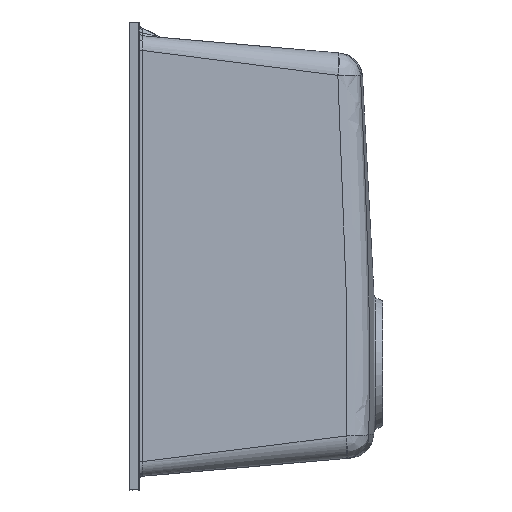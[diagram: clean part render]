
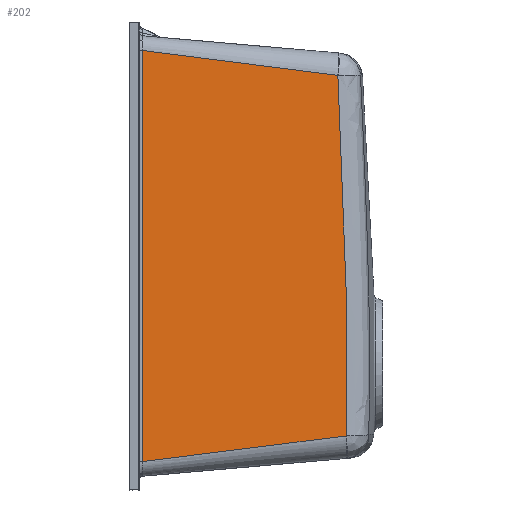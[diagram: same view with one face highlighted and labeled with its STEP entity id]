
A CAD part, left-side view. The second image highlights one B-rep face of the part: STEP entity #202.
In plain terms, the highlighted planar face has unit normal (-0.996, -0.087, 0).
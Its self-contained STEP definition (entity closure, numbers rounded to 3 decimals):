
#202=ADVANCED_FACE('',(#618),#619,.T.);
#618=FACE_OUTER_BOUND('',#3191,.T.);
#619=PLANE('',#3192);
#3191=EDGE_LOOP('',(#7005,#7006,#7007,#7008,#7009));
#3192=AXIS2_PLACEMENT_3D('',#7010,#7011,#7012);
#7005=ORIENTED_EDGE('',*,*,#8207,.F.);
#7006=ORIENTED_EDGE('',*,*,#8291,.T.);
#7007=ORIENTED_EDGE('',*,*,#8359,.F.);
#7008=ORIENTED_EDGE('',*,*,#8360,.F.);
#7009=ORIENTED_EDGE('',*,*,#8361,.F.);
#7010=CARTESIAN_POINT('',(-368.231,9.303,215.261));
#7011=DIRECTION('',(-0.996,-0.087,0.0));
#7012=DIRECTION('',(-0.087,0.996,0.0));
#8207=EDGE_CURVE('',#9063,#9064,#9065,.F.);
#8291=EDGE_CURVE('',#9063,#9194,#9197,.T.);
#8359=EDGE_CURVE('',#9300,#9194,#9301,.T.);
#8360=EDGE_CURVE('',#9302,#9300,#9303,.T.);
#8361=EDGE_CURVE('',#9064,#9302,#9304,.T.);
#9063=VERTEX_POINT('',#11461);
#9064=VERTEX_POINT('',#11462);
#9065=B_SPLINE_CURVE_WITH_KNOTS('',3,(#11463,#11464,#11465,#11466),.UNSPECIFIED.,.F.,.F.,(4,4),(-0.196,183.315),.UNSPECIFIED.);
#9194=VERTEX_POINT('',#11961);
#9197=LINE('',#11981,#11982);
#9300=VERTEX_POINT('',#12571);
#9301=B_SPLINE_CURVE_WITH_KNOTS('',5,(#12572,#12573,#12574,#12575,#12576,#12577),.UNSPECIFIED.,.F.,.F.,(6,6),(0.0,270.723),.UNSPECIFIED.);
#9302=VERTEX_POINT('',#12578);
#9303=B_SPLINE_CURVE_WITH_KNOTS('',5,(#12579,#12580,#12581,#12582,#12583,#12584),.UNSPECIFIED.,.F.,.F.,(6,6),(0.0,0.072),.UNSPECIFIED.);
#9304=B_SPLINE_CURVE_WITH_KNOTS('',5,(#12585,#12586,#12587,#12588,#12589,#12590,#12591,#12592,#12593,#12594,#12595,#12596,#12597,#12598,#12599,#12600,#12601,#12602,#12603,#12604,#12605),.UNSPECIFIED.,.F.,.F.,(6,3,3,3,3,3,6),(0.0,124.917,236.613,318.963,391.204,465.229,474.751),.UNSPECIFIED.);
#11461=CARTESIAN_POINT('',(-367.221,-2.239,208.555));
#11462=CARTESIAN_POINT('',(-351.34,-183.754,185.42));
#11463=CARTESIAN_POINT('',(-351.34,-183.754,185.42));
#11464=CARTESIAN_POINT('',(-356.652,-123.04,190.732));
#11465=CARTESIAN_POINT('',(-361.937,-62.63,199.539));
#11466=CARTESIAN_POINT('',(-367.221,-2.239,208.555));
#11961=CARTESIAN_POINT('',(-367.221,-2.239,-173.583));
#11981=CARTESIAN_POINT('',(-367.221,-2.239,0.0));
#11982=VECTOR('',#15678,1.0);
#12571=CARTESIAN_POINT('',(-350.67,-191.422,-149.75));
#12572=CARTESIAN_POINT('',(-350.67,-191.422,-149.75));
#12573=CARTESIAN_POINT('',(-353.992,-153.446,-153.072));
#12574=CARTESIAN_POINT('',(-357.307,-115.562,-157.449));
#12575=CARTESIAN_POINT('',(-360.615,-77.745,-162.549));
#12576=CARTESIAN_POINT('',(-363.918,-39.988,-168.035));
#12577=CARTESIAN_POINT('',(-367.221,-2.239,-173.583));
#12578=CARTESIAN_POINT('',(-350.665,-191.472,-149.745));
#12579=CARTESIAN_POINT('',(-350.665,-191.472,-149.745));
#12580=CARTESIAN_POINT('',(-350.666,-191.462,-149.746));
#12581=CARTESIAN_POINT('',(-350.667,-191.452,-149.747));
#12582=CARTESIAN_POINT('',(-350.668,-191.442,-149.748));
#12583=CARTESIAN_POINT('',(-350.669,-191.432,-149.749));
#12584=CARTESIAN_POINT('',(-350.67,-191.422,-149.75));
#12585=CARTESIAN_POINT('',(-351.34,-183.754,185.42));
#12586=CARTESIAN_POINT('',(-351.269,-184.574,167.773));
#12587=CARTESIAN_POINT('',(-351.198,-185.382,150.125));
#12588=CARTESIAN_POINT('',(-351.131,-186.149,132.952));
#12589=CARTESIAN_POINT('',(-351.004,-187.598,99.521));
#12590=CARTESIAN_POINT('',(-350.888,-188.929,66.085));
#12591=CARTESIAN_POINT('',(-350.835,-189.537,49.93));
#12592=CARTESIAN_POINT('',(-350.751,-190.487,22.503));
#12593=CARTESIAN_POINT('',(-350.685,-191.251,-4.93));
#12594=CARTESIAN_POINT('',(-350.66,-191.535,-16.573));
#12595=CARTESIAN_POINT('',(-350.621,-191.974,-38.431));
#12596=CARTESIAN_POINT('',(-350.6,-192.218,-60.291));
#12597=CARTESIAN_POINT('',(-350.594,-192.283,-70.297));
#12598=CARTESIAN_POINT('',(-350.591,-192.316,-90.98));
#12599=CARTESIAN_POINT('',(-350.606,-192.152,-111.663));
#12600=CARTESIAN_POINT('',(-350.618,-192.017,-122.078));
#12601=CARTESIAN_POINT('',(-350.635,-191.815,-133.892));
#12602=CARTESIAN_POINT('',(-350.657,-191.562,-145.705));
#12603=CARTESIAN_POINT('',(-350.66,-191.533,-147.052));
#12604=CARTESIAN_POINT('',(-350.663,-191.503,-148.398));
#12605=CARTESIAN_POINT('',(-350.665,-191.472,-149.745));
#15678=DIRECTION('',(0.0,0.0,-1.0));
